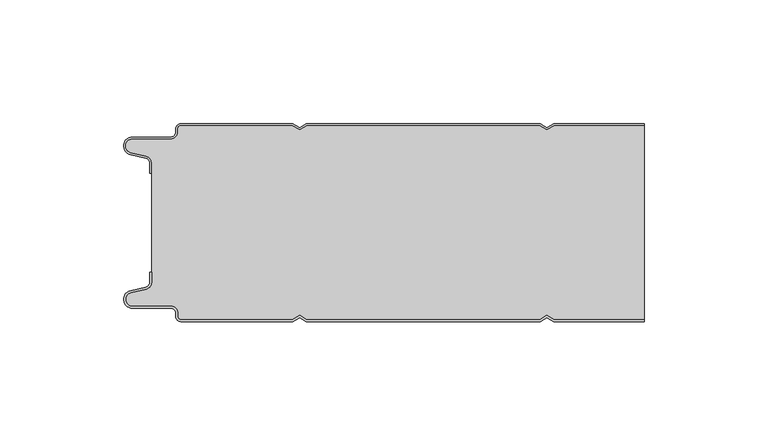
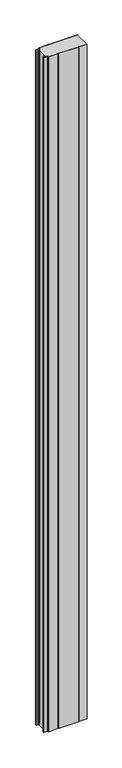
"""IFC4 building model written with IfcOpenShell, lengths in millimetres: plate geometry, PMH_Curtain-Panel_Perfil-Frigorífico : ACH_PMH_Panel-Acústico-Sectorización_80M."""

import ifcopenshell
import ifcopenshell.guid

model = None  # the IFC model being written
_history = None  # IfcOwnerHistory: only IFC2X3 demands one
_inside = {}  # id of a spatial element -> (the spatial element, [elements in it])
_under = {}  # id of a project, library or spatial element -> (it, [spatial elements below it])
_declared = {}  # id of a project -> (the project, [libraries it declares])
_typed = {}  # id of a type object -> (the type object, [elements of that type])
_made_of = {}  # id of a material, layer set ... -> (it, [elements and type objects made of it])


def new_model(schema):
    """Start an empty IFC model of exactly this schema.

    Asked for "IFC4X3", IfcOpenShell would pick the latest addendum, in which some entities
    have other attributes; the version numbers below select the first issue.
    IFC2X3 requires an IfcOwnerHistory on every rooted entity: one is made here for all.
    """
    global model, _history
    if schema == "IFC4X3":
        model = ifcopenshell.file(schema_version=(4, 3, 0, 0))
    else:
        model = ifcopenshell.file(schema=schema)
    _inside.clear()
    _under.clear()
    _declared.clear()
    _typed.clear()
    _made_of.clear()
    _history = None
    if model.schema == "IFC2X3":
        org = make("IfcOrganization", Name="unknown")
        user = make(
            "IfcPersonAndOrganization",
            ThePerson=make("IfcPerson", FamilyName="unknown"),
            TheOrganization=org,
        )
        app = make(
            "IfcApplication",
            ApplicationDeveloper=org,
            Version="unknown",
            ApplicationFullName="unknown",
            ApplicationIdentifier="unknown",
        )
        _history = make(
            "IfcOwnerHistory",
            OwningUser=user,
            OwningApplication=app,
            ChangeAction="ADDED",
            CreationDate=0,
        )
    return model


def make(cls, **values):
    """One entity of the class cls with the attributes given. An attribute that is None is left unset."""
    return model.create_entity(
        cls, **{name: value for name, value in values.items() if value is not None}
    )


def rooted(cls, **values):
    """An entity with a GlobalId (a new one), such as an element, a storey or a relation."""
    return make(cls, GlobalId=ifcopenshell.guid.new(), OwnerHistory=_history, **values)


def si_unit(unit_type, name, prefix=None):
    """IfcSIUnit, for example si_unit("LENGTHUNIT", "METRE", prefix="MILLI")."""
    return make("IfcSIUnit", UnitType=unit_type, Prefix=prefix, Name=name)


def assignment(units):
    """IfcUnitAssignment: the units of a project."""
    return None if units is None else make("IfcUnitAssignment", Units=units)


def point(xyz):
    """IfcCartesianPoint."""
    return None if xyz is None else make("IfcCartesianPoint", Coordinates=xyz)


def direction(xyz):
    """IfcDirection."""
    return None if xyz is None else make("IfcDirection", DirectionRatios=xyz)


def frame(location, z_axis=None, x_axis=None):
    """IfcAxis2Placement3D, a coordinate frame: its origin and axes. An axis left out is left unset."""
    return make(
        "IfcAxis2Placement3D",
        Location=point(location),
        Axis=direction(z_axis),
        RefDirection=direction(x_axis),
    )


def frame_2d(location, x_axis=None):
    """IfcAxis2Placement2D, a coordinate frame in the plane: its origin and x axis."""
    return make(
        "IfcAxis2Placement2D", Location=point(location), RefDirection=direction(x_axis)
    )


def origin():
    """The frame at (0, 0, 0) with its axes left unset."""
    return frame((0.0, 0.0, 0.0))


def origin_with_axes():
    """The frame at (0, 0, 0) with the z axis (0, 0, 1) and the x axis (1, 0, 0) written out."""
    return frame((0.0, 0.0, 0.0), z_axis=(0.0, 0.0, 1.0), x_axis=(1.0, 0.0, 0.0))


def place(relative_to, where):
    """IfcLocalPlacement: puts the frame where relative to a parent placement (None: the world)."""
    return make(
        "IfcLocalPlacement", PlacementRelTo=relative_to, RelativePlacement=where
    )


def context(
    kind, dimensions, precision=None, world=None, true_north=None, identifier=None
):
    """IfcGeometricRepresentationContext, for example the 3D "Model" context."""
    return make(
        "IfcGeometricRepresentationContext",
        ContextIdentifier=identifier,
        ContextType=kind,
        CoordinateSpaceDimension=dimensions,
        Precision=precision,
        WorldCoordinateSystem=world,
        TrueNorth=true_north,
    )


def project(units=None, contexts=None):
    """IfcProject with its units and contexts."""
    return rooted(
        "IfcProject",
        Name="project",
        RepresentationContexts=contexts,
        UnitsInContext=assignment(units),
    )


def spatial(cls, under=None, at=None, **own):
    """A site, building, storey or space (cls), placed at a placement, below another one or the project."""
    s = rooted(cls, ObjectPlacement=at, **own)
    if under is not None:
        _under.setdefault(under.id(), (under, []))[1].append(s)
    return s


def polyline(points):
    """IfcPolyline through the points."""
    return make("IfcPolyline", Points=[point(p) for p in points])


def circle_curve(where, radius):
    """IfcCircle in the frame where."""
    return make("IfcCircle", Position=where, Radius=radius)


def trimmed(basis, trim1, trim2, sense, master):
    """IfcTrimmedCurve: the piece of a basis curve between two trims."""
    return make(
        "IfcTrimmedCurve",
        BasisCurve=basis,
        Trim1=trim1,
        Trim2=trim2,
        SenseAgreement=sense,
        MasterRepresentation=master,
    )


def segment(curve, same_sense, transition):
    """IfcCompositeCurveSegment."""
    return make(
        "IfcCompositeCurveSegment",
        Transition=transition,
        SameSense=same_sense,
        ParentCurve=curve,
    )


def composite_curve(segments, self_intersect=None):
    """IfcCompositeCurve: segments joined end to end."""
    return make("IfcCompositeCurve", Segments=segments, SelfIntersect=self_intersect)


def outline(outer, holes=None, kind="AREA"):
    """IfcArbitraryClosedProfileDef: a profile drawn as a closed curve; with holes, ...WithVoids."""
    if holes is None:
        return make("IfcArbitraryClosedProfileDef", ProfileType=kind, OuterCurve=outer)
    return make(
        "IfcArbitraryProfileDefWithVoids",
        ProfileType=kind,
        OuterCurve=outer,
        InnerCurves=holes,
    )


def extrude(swept, where, along, depth):
    """IfcExtrudedAreaSolid: the profile swept, set in the frame where, extruded along a direction by depth."""
    return make(
        "IfcExtrudedAreaSolid",
        SweptArea=swept,
        Position=where,
        ExtrudedDirection=direction(along),
        Depth=depth,
    )


def shape(context_of_items, identifier, shape_type, items):
    """IfcShapeRepresentation: the items that make up one representation, for example the "Body"."""
    return make(
        "IfcShapeRepresentation",
        ContextOfItems=context_of_items,
        RepresentationIdentifier=identifier,
        RepresentationType=shape_type,
        Items=items,
    )


def source(mapping_origin, context_of_items, identifier, shape_type, items):
    """IfcRepresentationMap: a shape defined once, which mapped items show again and again."""
    return make(
        "IfcRepresentationMap",
        MappingOrigin=mapping_origin,
        MappedRepresentation=shape(context_of_items, identifier, shape_type, items),
    )


def transform(
    local_origin,
    x_axis=None,
    y_axis=None,
    z_axis=None,
    scale=None,
    scale2=None,
    scale3=None,
    uniform=True,
):
    """IfcCartesianTransformationOperator3D, or its non-uniform kind. x_axis, y_axis, z_axis: its Axis1, 2, 3."""
    if uniform:
        return make(
            "IfcCartesianTransformationOperator3D",
            Axis1=direction(x_axis),
            Axis2=direction(y_axis),
            LocalOrigin=point(local_origin),
            Scale=scale,
            Axis3=direction(z_axis),
        )
    return make(
        "IfcCartesianTransformationOperator3DnonUniform",
        Axis1=direction(x_axis),
        Axis2=direction(y_axis),
        LocalOrigin=point(local_origin),
        Scale=scale,
        Axis3=direction(z_axis),
        Scale2=scale2,
        Scale3=scale3,
    )


def mapped(mapping_source, mapping_target):
    """IfcMappedItem: shows the shape of a source again, moved by a transform."""
    return make(
        "IfcMappedItem", MappingSource=mapping_source, MappingTarget=mapping_target
    )


def made_of(thing, what):
    """Note that an element or type object is made of a material, layer set ...; save() writes the relation."""
    if what is not None:
        _made_of.setdefault(what.id(), (what, []))[1].append(thing)
    return thing


def element(
    cls,
    number,
    at=None,
    inside=None,
    cuts=None,
    type_object=None,
    material=None,
    context=None,
    identifier="Body",
    shape_type=None,
    held_by="IfcProductDefinitionShape",
    body=None,
    shapes=None,
    **own,
):
    """One element of the class cls, such as IfcWall. Its Tag is "e" and its number.

    at: its placement. inside: the storey or other place that contains it. cuts: it is an
    opening in that element (IfcRelVoidsElement). A single representation is given by context,
    identifier, shape_type and body (its items); several are given by shapes. held_by: the class
    of the entity that holds the representations. save() writes the other relations.
    """
    e = rooted(cls, Tag="e%d" % number, ObjectPlacement=at, **own)
    if body is not None:
        shapes = [shape(context, identifier, shape_type, body)]
    if shapes is not None:
        e.Representation = make(held_by, Representations=shapes)
    if inside is not None:
        _inside.setdefault(inside.id(), (inside, []))[1].append(e)
    if cuts is not None:
        rooted(
            "IfcRelVoidsElement", RelatingBuildingElement=cuts, RelatedOpeningElement=e
        )
    if type_object is not None:
        _typed.setdefault(type_object.id(), (type_object, []))[1].append(e)
    return made_of(e, material)


def aggregate(whole, parts):
    """IfcRelAggregates: a whole, such as a stair, and the parts it consists of."""
    return rooted("IfcRelAggregates", RelatingObject=whole, RelatedObjects=parts)


def save(model, path):
    """Write the relations noted so far, then the file.

    IfcRelAggregates (storeys below a building ...), IfcRelContainedInSpatialStructure (elements
    in a storey), IfcRelDefinesByType, IfcRelAssociatesMaterial and IfcRelDeclares: one each for
    every whole, place, type object, material and project.
    """
    for whole, parts in _under.values():
        aggregate(whole, parts)
    for where, things in _inside.values():
        rooted(
            "IfcRelContainedInSpatialStructure",
            RelatedElements=things,
            RelatingStructure=where,
        )
    for kind, things in _typed.values():
        rooted("IfcRelDefinesByType", RelatedObjects=things, RelatingType=kind)
    for what, things in _made_of.values():
        rooted("IfcRelAssociatesMaterial", RelatedObjects=things, RelatingMaterial=what)
    for by, libraries in _declared.values():
        rooted("IfcRelDeclares", RelatingContext=by, RelatedDefinitions=libraries)
    model.write(path)


def plate_f34e5e84(model_context):
    return source(origin(), model_context, "Body", "SweptSolid", [
        extrude(outline(composite_curve([segment(polyline([(-100.0, 15.878557), (-100.0, 20.0), (-99.2, 20.0), (-99.2, 15.878557)]), True, "CONTINUOUS"), segment(trimmed(circle_curve(frame_2d((-102.0, 15.878557)), 2.8), [point((-99.2, 15.878557))], [point((-101.370137, 13.1503208))], False, "CARTESIAN"), True, "CONTINUOUS"), segment(polyline([(-101.370137, 13.1503208), (-107.529863, 11.728236)]), True, "CONTINUOUS"), segment(trimmed(circle_curve(frame_2d((-106.9, 9.0)), 2.8), [point((-107.529863, 11.728236))], [point((-106.9, 6.2))], True, "CARTESIAN"), True, "CONTINUOUS"), segment(polyline([(-106.9, 6.2), (-91.4, 6.2)]), True, "CONTINUOUS"), segment(trimmed(circle_curve(frame_2d((-91.4, 3.4)), 2.8), [point((-91.4, 6.2))], [point((-88.6, 3.4))], False, "CARTESIAN"), True, "CONTINUOUS"), segment(polyline([(-88.6, 3.4), (-88.6, 2.0)]), True, "CONTINUOUS"), segment(trimmed(circle_curve(frame_2d((-87.4, 2.0)), 1.2), [point((-88.6, 2.0))], [point((-87.4, 0.8))], True, "CARTESIAN"), True, "CONTINUOUS"), segment(polyline([(-87.4, 0.8), (-42.3143588, 0.8), (-39.4, 2.482606), (-36.4856412, 0.8), (57.6856412, 0.8), (60.6, 2.482606), (63.5143588, 0.8), (100.0, 0.8), (100.0, 0.0), (63.2999995, 0.0), (60.6, 1.5588455), (57.9000005, 0.0), (-36.7000005, 0.0), (-39.4, 1.5588455), (-42.0999995, 0.0), (-87.4, 0.0)]), True, "CONTINUOUS"), segment(trimmed(circle_curve(frame_2d((-87.4, 2.0)), 2.0), [point((-87.4, 0.0))], [point((-89.4, 2.0))], False, "CARTESIAN"), True, "CONTINUOUS"), segment(polyline([(-89.4, 2.0), (-89.4, 3.4)]), True, "CONTINUOUS"), segment(trimmed(circle_curve(frame_2d((-91.4, 3.4)), 2.0), [point((-89.4, 3.4))], [point((-91.4, 5.4))], True, "CARTESIAN"), True, "CONTINUOUS"), segment(polyline([(-91.4, 5.4), (-106.9, 5.4)]), True, "CONTINUOUS"), segment(trimmed(circle_curve(frame_2d((-106.9, 9.0)), 3.6), [point((-106.9, 5.4))], [point((-107.7098239, 12.5077322))], False, "CARTESIAN"), True, "CONTINUOUS"), segment(polyline([(-107.7098239, 12.5077322), (-101.5500979, 13.929817)]), True, "CONTINUOUS"), segment(trimmed(circle_curve(frame_2d((-102.0, 15.878557)), 2.0), [point((-101.5500979, 13.929817))], [point((-100.0, 15.878557))], True, "CARTESIAN"), True, "CONTINUOUS")], self_intersect=False)), origin_with_axes(), (0.0, 0.0, 1.0), 3500.0),
        extrude(outline(composite_curve([segment(trimmed(circle_curve(frame_2d((-102.0, 64.1214426)), 2.8), [point((-99.2, 64.1214426))], [point((-101.370137, 66.8496788))], True, "CARTESIAN"), True, "CONTINUOUS"), segment(polyline([(-101.370137, 66.8496788), (-107.5298631, 68.2717638)]), True, "CONTINUOUS"), segment(trimmed(circle_curve(frame_2d((-106.9, 71.0)), 2.8), [point((-107.5298631, 68.2717638))], [point((-106.9, 73.8))], False, "CARTESIAN"), True, "CONTINUOUS"), segment(polyline([(-106.9, 73.8), (-91.4000001, 73.8)]), True, "CONTINUOUS"), segment(trimmed(circle_curve(frame_2d((-91.4000001, 76.6)), 2.8), [point((-91.4000001, 73.8))], [point((-88.6000001, 76.6))], True, "CARTESIAN"), True, "CONTINUOUS"), segment(polyline([(-88.6000001, 76.6), (-88.6000001, 78.0)]), True, "CONTINUOUS"), segment(trimmed(circle_curve(frame_2d((-87.4000001, 78.0)), 1.2), [point((-88.6000001, 78.0))], [point((-87.4000001, 79.2))], False, "CARTESIAN"), True, "CONTINUOUS"), segment(polyline([(-87.4000001, 79.2), (-42.3143589, 79.2), (-39.4000001, 77.517394), (-36.4856412, 79.2), (57.6856411, 79.2), (60.5999999, 77.517394), (63.5143588, 79.2), (100.0, 79.2), (100.0, 0.8), (63.5143588, 0.8), (60.5999999, 2.482606), (57.6856411, 0.8), (-36.4856412, 0.8), (-39.4000001, 2.482606), (-42.3143589, 0.8), (-87.4000001, 0.8)]), True, "CONTINUOUS"), segment(trimmed(circle_curve(frame_2d((-87.4000001, 2.0)), 1.2), [point((-87.4000001, 0.8))], [point((-88.6000001, 2.0))], False, "CARTESIAN"), True, "CONTINUOUS"), segment(polyline([(-88.6000001, 2.0), (-88.6000001, 3.4)]), True, "CONTINUOUS"), segment(trimmed(circle_curve(frame_2d((-91.4000001, 3.4)), 2.8), [point((-88.6000001, 3.4))], [point((-91.4000001, 6.2))], True, "CARTESIAN"), True, "CONTINUOUS"), segment(polyline([(-91.4000001, 6.2), (-106.9, 6.2)]), True, "CONTINUOUS"), segment(trimmed(circle_curve(frame_2d((-106.9, 9.0)), 2.8), [point((-106.9, 6.2))], [point((-107.5298631, 11.7282362))], False, "CARTESIAN"), True, "CONTINUOUS"), segment(polyline([(-107.5298631, 11.7282362), (-101.370137, 13.1503212)]), True, "CONTINUOUS"), segment(trimmed(circle_curve(frame_2d((-102.0, 15.8785573)), 2.8), [point((-101.370137, 13.1503212))], [point((-99.2, 15.8785573))], True, "CARTESIAN"), True, "CONTINUOUS"), segment(polyline([(-99.2, 15.8785573), (-99.2, 64.1214426)]), True, "CONTINUOUS")], self_intersect=False)), origin_with_axes(), (0.0, 0.0, 1.0), 3500.0),
        extrude(outline(composite_curve([segment(trimmed(circle_curve(frame_2d((-102.0, 64.121443)), 2.0), [point((-100.0, 64.121443))], [point((-101.5500978, 66.0701831))], True, "CARTESIAN"), True, "CONTINUOUS"), segment(polyline([(-101.5500978, 66.0701831), (-107.7098239, 67.492268)]), True, "CONTINUOUS"), segment(trimmed(circle_curve(frame_2d((-106.9, 71.0)), 3.6), [point((-107.7098239, 67.492268))], [point((-106.9, 74.6))], False, "CARTESIAN"), True, "CONTINUOUS"), segment(polyline([(-106.9, 74.6), (-91.4, 74.6)]), True, "CONTINUOUS"), segment(trimmed(circle_curve(frame_2d((-91.4, 76.6)), 2.0), [point((-91.4, 74.6))], [point((-89.4, 76.6))], True, "CARTESIAN"), True, "CONTINUOUS"), segment(polyline([(-89.4, 76.6), (-89.4, 78.0)]), True, "CONTINUOUS"), segment(trimmed(circle_curve(frame_2d((-87.4, 78.0)), 2.0), [point((-89.4, 78.0))], [point((-87.4, 80.0))], False, "CARTESIAN"), True, "CONTINUOUS"), segment(polyline([(-87.4, 80.0), (-42.0999995, 80.0), (-39.4, 78.4411545), (-36.7000005, 80.0), (57.9000005, 80.0), (60.6, 78.4411545), (63.2999995, 80.0), (100.0, 80.0), (100.0, 79.2), (63.5143588, 79.2), (60.6, 77.517394), (57.6856412, 79.2), (-36.4856412, 79.2), (-39.4, 77.517394), (-42.3143588, 79.2), (-87.4, 79.2)]), True, "CONTINUOUS"), segment(trimmed(circle_curve(frame_2d((-87.4, 78.0)), 1.2), [point((-87.4, 79.2))], [point((-88.6, 78.0))], True, "CARTESIAN"), True, "CONTINUOUS"), segment(polyline([(-88.6, 78.0), (-88.6, 76.6)]), True, "CONTINUOUS"), segment(trimmed(circle_curve(frame_2d((-91.4, 76.6)), 2.8), [point((-88.6, 76.6))], [point((-91.4, 73.8))], False, "CARTESIAN"), True, "CONTINUOUS"), segment(polyline([(-91.4, 73.8), (-106.9, 73.8)]), True, "CONTINUOUS"), segment(trimmed(circle_curve(frame_2d((-106.9, 71.0)), 2.8), [point((-106.9, 73.8))], [point((-107.529863, 68.2717638))], True, "CARTESIAN"), True, "CONTINUOUS"), segment(polyline([(-107.529863, 68.2717638), (-101.370137, 66.849679)]), True, "CONTINUOUS"), segment(trimmed(circle_curve(frame_2d((-102.0, 64.121443)), 2.8), [point((-101.370137, 66.849679))], [point((-99.2, 64.121443))], False, "CARTESIAN"), True, "CONTINUOUS"), segment(polyline([(-99.2, 64.121443), (-99.2, 60.0), (-100.0, 60.0), (-100.0, 64.121443)]), True, "CONTINUOUS")], self_intersect=False)), origin_with_axes(), (0.0, 0.0, 1.0), 3500.0),
    ])


if __name__ == "__main__":
    model = new_model("IFC4")
    model_context = context("Model", 3, world=origin())
    ifc_project = project(units=[si_unit("LENGTHUNIT", "METRE", prefix="MILLI")], contexts=[model_context])
    site = spatial("IfcSite", under=ifc_project)
    building = spatial("IfcBuilding", under=site)
    placement = place(None, origin())
    plate_shape = plate_f34e5e84(model_context)
    element("IfcPlate", 1, ObjectType="PMH_Curtain-Panel_Perfil-Frigorífico : ACH_PMH_Panel-Acústico-Sectorización_80M", at=placement, inside=building, context=model_context, shape_type="MappedRepresentation", body=[
        mapped(plate_shape, transform((0.0, 0.0, 0.0), x_axis=(1.0, 0.0, 0.0), y_axis=(0.0, 1.0, 0.0), z_axis=(0.0, 0.0, 1.0))),
    ])
    save(model, "model.ifc")
